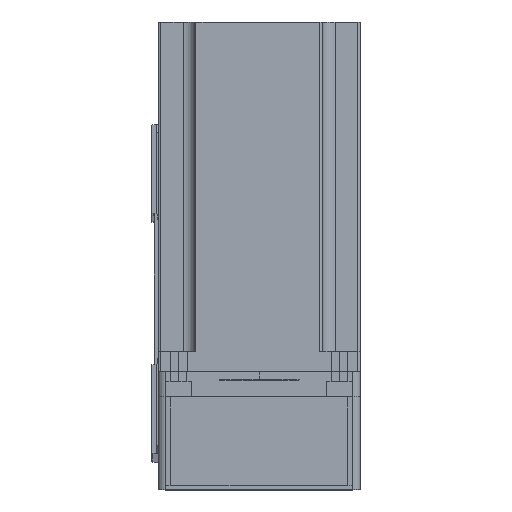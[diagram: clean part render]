
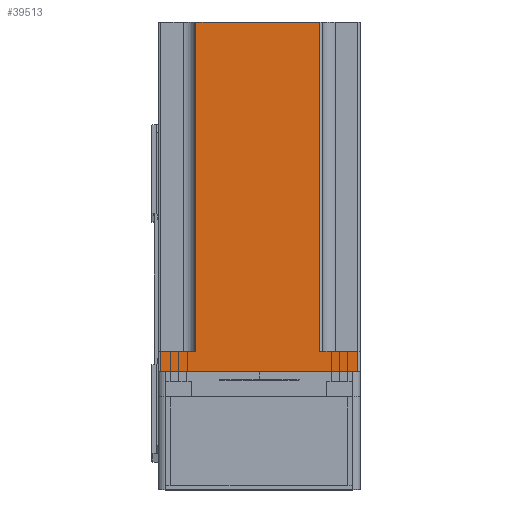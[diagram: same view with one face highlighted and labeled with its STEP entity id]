
A CAD part, top view. The second image highlights one B-rep face of the part: STEP entity #39513.
In plain terms, the highlighted planar face has unit normal (0, 0, 1) as drawn and (-1, 0, 0) by its records, which use the part's own axes.
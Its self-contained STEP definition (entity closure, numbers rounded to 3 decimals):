
#296 = VECTOR ( 'NONE', #11020, 1000. ) ;
#815 = EDGE_CURVE ( 'NONE', #48782, #57106, #34464, .T. ) ;
#1076 = CARTESIAN_POINT ( 'NONE',  ( -40., -24., 138.3 ) ) ;
#2735 = VERTEX_POINT ( 'NONE', #42911 ) ;
#4148 = CARTESIAN_POINT ( 'NONE',  ( -40., -40., 8. ) ) ;
#8173 = CARTESIAN_POINT ( 'NONE',  ( -40., 25., 138.3 ) ) ;
#8221 = EDGE_CURVE ( 'NONE', #2735, #15930, #35261, .T. ) ;
#8253 = DIRECTION ( 'NONE',  ( 0., 0., 1. ) ) ;
#9111 = CARTESIAN_POINT ( 'NONE',  ( -40., 39., 0. ) ) ;
#9940 = DIRECTION ( 'NONE',  ( 0., -1., 0. ) ) ;
#11020 = DIRECTION ( 'NONE',  ( 0., 0., 1. ) ) ;
#11152 = ORIENTED_EDGE ( 'NONE', *, *, #40777, .T. ) ;
#11434 = ORIENTED_EDGE ( 'NONE', *, *, #8221, .F. ) ;
#12798 = LINE ( 'NONE', #43870, #296 ) ;
#15521 = LINE ( 'NONE', #45229, #39002 ) ;
#15930 = VERTEX_POINT ( 'NONE', #58446 ) ;
#17108 = DIRECTION ( 'NONE',  ( 0., 1., 0. ) ) ;
#17189 = CARTESIAN_POINT ( 'NONE',  ( -40., -39., 0. ) ) ;
#20477 = ORIENTED_EDGE ( 'NONE', *, *, #815, .T. ) ;
#21591 = LINE ( 'NONE', #28859, #45091 ) ;
#21737 = VERTEX_POINT ( 'NONE', #17189 ) ;
#21962 = VECTOR ( 'NONE', #22924, 1000. ) ;
#22165 = DIRECTION ( 'NONE',  ( 1., 0., 0. ) ) ;
#22836 = DIRECTION ( 'NONE',  ( 0., 0., 1. ) ) ;
#22924 = DIRECTION ( 'NONE',  ( 0., 0., -1. ) ) ;
#23811 = VERTEX_POINT ( 'NONE', #1076 ) ;
#26670 = CARTESIAN_POINT ( 'NONE',  ( -40., 25., 8. ) ) ;
#26671 = PLANE ( 'NONE',  #52267 ) ;
#27087 = EDGE_LOOP ( 'NONE', ( #11434, #11152, #60069, #56170, #37734, #20477, #41965, #41176 ) ) ;
#27312 = FACE_OUTER_BOUND ( 'NONE', #27087, .T. ) ;
#28859 = CARTESIAN_POINT ( 'NONE',  ( -40., -40., 138.3 ) ) ;
#29492 = EDGE_CURVE ( 'NONE', #57106, #21737, #47988, .T. ) ;
#30654 = EDGE_CURVE ( 'NONE', #42529, #48782, #15521, .T. ) ;
#32268 = DIRECTION ( 'NONE',  ( 0., -1., 0. ) ) ;
#32551 = VECTOR ( 'NONE', #8253, 1000. ) ;
#34464 = LINE ( 'NONE', #41559, #21962 ) ;
#35261 = LINE ( 'NONE', #4148, #60320 ) ;
#35495 = VECTOR ( 'NONE', #48670, 1000. ) ;
#36552 = CARTESIAN_POINT ( 'NONE',  ( -40., -24., 138.3 ) ) ;
#37734 = ORIENTED_EDGE ( 'NONE', *, *, #30654, .T. ) ;
#38313 = EDGE_CURVE ( 'NONE', #21737, #15930, #12798, .T. ) ;
#39002 = VECTOR ( 'NONE', #17108, 1000. ) ;
#39513 = ADVANCED_FACE ( 'NONE', ( #27312 ), #26671, .F. ) ;
#39542 = VECTOR ( 'NONE', #22836, 1000. ) ;
#40777 = EDGE_CURVE ( 'NONE', #2735, #23811, #52088, .T. ) ;
#41176 = ORIENTED_EDGE ( 'NONE', *, *, #38313, .T. ) ;
#41559 = CARTESIAN_POINT ( 'NONE',  ( -40., 39., 138.3 ) ) ;
#41965 = ORIENTED_EDGE ( 'NONE', *, *, #29492, .T. ) ;
#42529 = VERTEX_POINT ( 'NONE', #26670 ) ;
#42911 = CARTESIAN_POINT ( 'NONE',  ( -40., -24., 8. ) ) ;
#43870 = CARTESIAN_POINT ( 'NONE',  ( -40., -39., 138.3 ) ) ;
#45091 = VECTOR ( 'NONE', #9940, 1000. ) ;
#45229 = CARTESIAN_POINT ( 'NONE',  ( -40., 40., 8. ) ) ;
#46004 = VERTEX_POINT ( 'NONE', #8173 ) ;
#47988 = LINE ( 'NONE', #48252, #35495 ) ;
#48252 = CARTESIAN_POINT ( 'NONE',  ( -40., -40., 0. ) ) ;
#48670 = DIRECTION ( 'NONE',  ( 0., -1., 0. ) ) ;
#48782 = VERTEX_POINT ( 'NONE', #59577 ) ;
#50276 = CARTESIAN_POINT ( 'NONE',  ( -40., -40., 138.3 ) ) ;
#52088 = LINE ( 'NONE', #36552, #39542 ) ;
#52267 = AXIS2_PLACEMENT_3D ( 'NONE', #50276, #22165, #55060 ) ;
#55060 = DIRECTION ( 'NONE',  ( 0., 0., -1. ) ) ;
#55728 = CARTESIAN_POINT ( 'NONE',  ( -40., 25., 8. ) ) ;
#55950 = EDGE_CURVE ( 'NONE', #46004, #23811, #21591, .T. ) ;
#56170 = ORIENTED_EDGE ( 'NONE', *, *, #56340, .F. ) ;
#56340 = EDGE_CURVE ( 'NONE', #42529, #46004, #59103, .T. ) ;
#57106 = VERTEX_POINT ( 'NONE', #9111 ) ;
#58446 = CARTESIAN_POINT ( 'NONE',  ( -40., -39., 8. ) ) ;
#59103 = LINE ( 'NONE', #55728, #32551 ) ;
#59577 = CARTESIAN_POINT ( 'NONE',  ( -40., 39., 8. ) ) ;
#60069 = ORIENTED_EDGE ( 'NONE', *, *, #55950, .F. ) ;
#60320 = VECTOR ( 'NONE', #32268, 1000. ) ;
